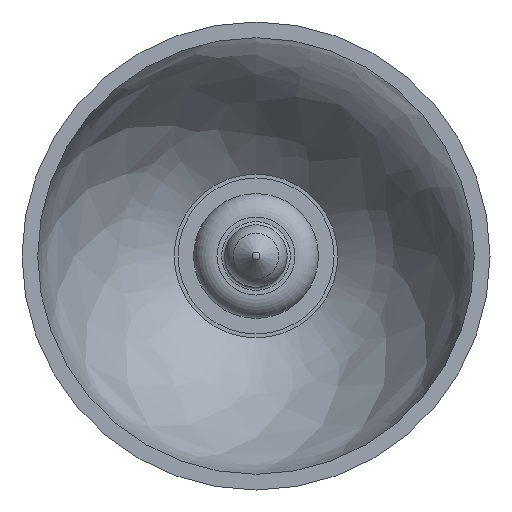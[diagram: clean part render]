
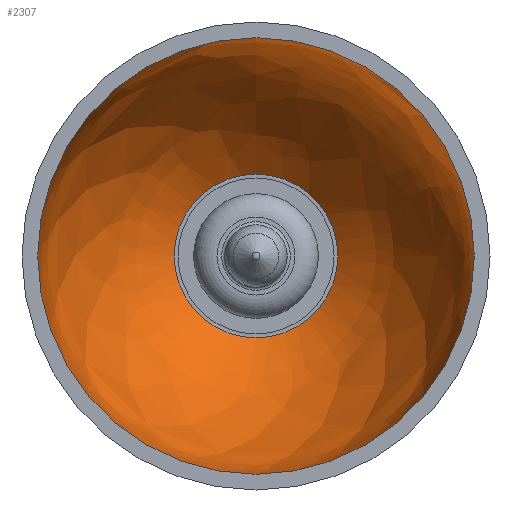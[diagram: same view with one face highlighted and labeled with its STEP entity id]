
A CAD part, front view. The second image highlights one B-rep face of the part: STEP entity #2307.
In plain terms, the highlighted free-form (B-spline) face has degree [2, 2] with [3, 9] control points.
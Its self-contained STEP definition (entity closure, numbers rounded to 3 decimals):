
#604=FACE_OUTER_BOUND('',#741,.T.);
#741=EDGE_LOOP('',(#1660,#1661,#1662,#1663,#1664,#1665));
#916=CIRCLE('',#2592,13.993);
#917=CIRCLE('',#2593,21.483);
#918=CIRCLE('',#2594,5.244);
#919=CIRCLE('',#2595,5.244);
#920=CIRCLE('',#2596,13.993);
#1105=VERTEX_POINT('',#3805);
#1106=VERTEX_POINT('',#3806);
#1107=VERTEX_POINT('',#3808);
#1108=VERTEX_POINT('',#3810);
#1337=EDGE_CURVE('',#1105,#1106,#916,.T.);
#1338=EDGE_CURVE('',#1106,#1107,#917,.T.);
#1339=EDGE_CURVE('',#1108,#1107,#918,.T.);
#1340=EDGE_CURVE('',#1107,#1108,#919,.T.);
#1341=EDGE_CURVE('',#1106,#1105,#920,.T.);
#1660=ORIENTED_EDGE('',*,*,#1337,.T.);
#1661=ORIENTED_EDGE('',*,*,#1338,.T.);
#1662=ORIENTED_EDGE('',*,*,#1339,.F.);
#1663=ORIENTED_EDGE('',*,*,#1340,.F.);
#1664=ORIENTED_EDGE('',*,*,#1338,.F.);
#1665=ORIENTED_EDGE('',*,*,#1341,.T.);
#2306=(
BOUNDED_SURFACE()
B_SPLINE_SURFACE(2,2,((#3778,#3779,#3780,#3781,#3782,#3783,#3784,#3785,
#3786),(#3787,#3788,#3789,#3790,#3791,#3792,#3793,#3794,#3795),(#3796,#3797,
#3798,#3799,#3800,#3801,#3802,#3803,#3804)),.UNSPECIFIED.,.F.,.T.,.F.)
B_SPLINE_SURFACE_WITH_KNOTS((3,3),(3,2,2,2,3),(-0.936,-0.012),
(-3.142,-1.571,0.,1.571,3.142),
 .UNSPECIFIED.)
GEOMETRIC_REPRESENTATION_ITEM()
RATIONAL_B_SPLINE_SURFACE(((1.,0.707,1.,0.707,1.,
0.707,1.,0.707,1.),(0.895,0.633,
0.895,0.633,0.895,0.633,0.895,
0.633,0.895),(1.,0.707,1.,0.707,
1.,0.707,1.,0.707,1.)))
REPRESENTATION_ITEM('')
SURFACE()
);
#2307=ADVANCED_FACE('',(#604),#2306,.T.);
#2592=AXIS2_PLACEMENT_3D('',#3807,#2946,#2947);
#2593=AXIS2_PLACEMENT_3D('',#3809,#2948,#2949);
#2594=AXIS2_PLACEMENT_3D('',#3811,#2950,#2951);
#2595=AXIS2_PLACEMENT_3D('',#3812,#2952,#2953);
#2596=AXIS2_PLACEMENT_3D('',#3813,#2954,#2955);
#2946=DIRECTION('center_axis',(0.,-1.,0.));
#2947=DIRECTION('ref_axis',(1.,0.,0.));
#2948=DIRECTION('center_axis',(-1.,0.,0.));
#2949=DIRECTION('ref_axis',(0.,0.,
1.));
#2950=DIRECTION('center_axis',(0.,-1.,0.));
#2951=DIRECTION('ref_axis',(1.,0.,0.));
#2952=DIRECTION('center_axis',(0.,-1.,0.));
#2953=DIRECTION('ref_axis',(1.,0.,0.));
#2954=DIRECTION('center_axis',(0.,-1.,0.));
#2955=DIRECTION('ref_axis',(1.,0.,0.));
#3778=CARTESIAN_POINT('Ctrl Pts',(0.,17.051,5.244));
#3779=CARTESIAN_POINT('Ctrl Pts',(-5.244,17.051,5.244));
#3780=CARTESIAN_POINT('Ctrl Pts',(-5.244,17.051,0.));
#3781=CARTESIAN_POINT('Ctrl Pts',(-5.244,17.051,-5.244));
#3782=CARTESIAN_POINT('Ctrl Pts',(0.,17.051,-5.244));
#3783=CARTESIAN_POINT('Ctrl Pts',(5.244,17.051,-5.244));
#3784=CARTESIAN_POINT('Ctrl Pts',(5.244,17.051,0.));
#3785=CARTESIAN_POINT('Ctrl Pts',(5.244,17.051,5.244));
#3786=CARTESIAN_POINT('Ctrl Pts',(0.,17.051,5.244));
#3787=CARTESIAN_POINT('Ctrl Pts',(0.,10.705,13.867));
#3788=CARTESIAN_POINT('Ctrl Pts',(-13.867,10.705,13.867));
#3789=CARTESIAN_POINT('Ctrl Pts',(-13.867,10.705,0.));
#3790=CARTESIAN_POINT('Ctrl Pts',(-13.867,10.705,-13.867));
#3791=CARTESIAN_POINT('Ctrl Pts',(0.,10.705,-13.867));
#3792=CARTESIAN_POINT('Ctrl Pts',(13.867,10.705,-13.867));
#3793=CARTESIAN_POINT('Ctrl Pts',(13.867,10.705,0.));
#3794=CARTESIAN_POINT('Ctrl Pts',(13.867,10.705,13.867));
#3795=CARTESIAN_POINT('Ctrl Pts',(0.,10.705,13.867));
#3796=CARTESIAN_POINT('Ctrl Pts',(0.,0.,13.993));
#3797=CARTESIAN_POINT('Ctrl Pts',(-13.993,0.,
13.993));
#3798=CARTESIAN_POINT('Ctrl Pts',(-13.993,0.,
0.));
#3799=CARTESIAN_POINT('Ctrl Pts',(-13.993,0.,
-13.993));
#3800=CARTESIAN_POINT('Ctrl Pts',(0.,0.,-13.993));
#3801=CARTESIAN_POINT('Ctrl Pts',(13.993,0.,
-13.993));
#3802=CARTESIAN_POINT('Ctrl Pts',(13.993,0.,
0.));
#3803=CARTESIAN_POINT('Ctrl Pts',(13.993,0.,
13.993));
#3804=CARTESIAN_POINT('Ctrl Pts',(0.,0.,13.993));
#3805=CARTESIAN_POINT('',(0.,0.,-13.993));
#3806=CARTESIAN_POINT('',(0.,0.,13.993));
#3807=CARTESIAN_POINT('Origin',(0.,0.,0.));
#3808=CARTESIAN_POINT('',(0.,17.051,5.244));
#3809=CARTESIAN_POINT('Origin',(0.,-0.252,
-7.489));
#3810=CARTESIAN_POINT('',(0.,17.051,-5.244));
#3811=CARTESIAN_POINT('Origin',(0.,17.051,0.));
#3812=CARTESIAN_POINT('Origin',(0.,17.051,0.));
#3813=CARTESIAN_POINT('Origin',(0.,0.,0.));
